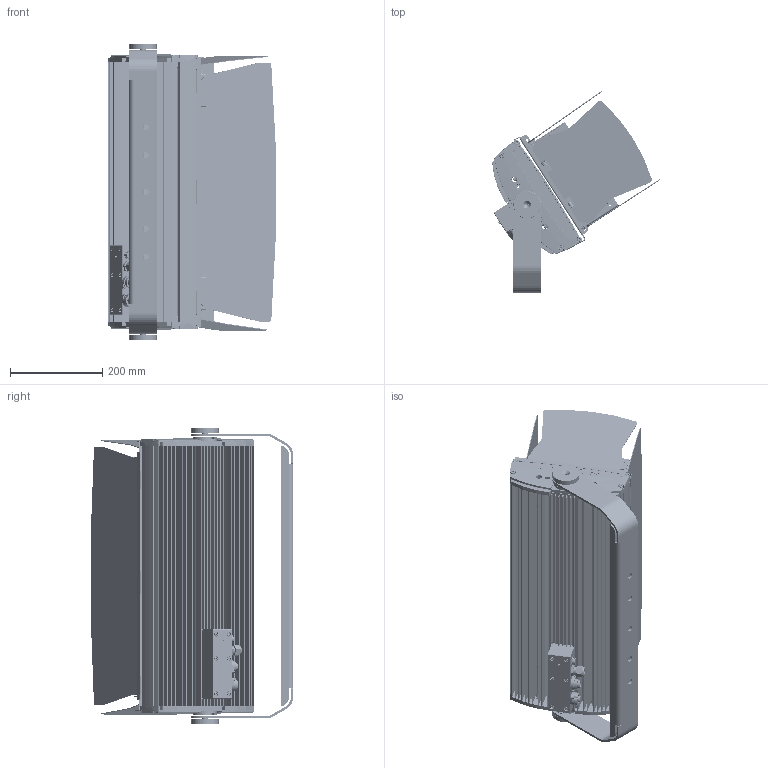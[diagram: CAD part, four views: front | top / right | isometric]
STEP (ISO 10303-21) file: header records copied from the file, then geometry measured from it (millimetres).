
FILE_DESCRIPTION(/* description */ ('','CAx-IF Rec.Pracs.---Representation and Presentation of Product Manufacturing Information (PMI)---4.0---2014-10-13'),/* implementation_level */ '2;1');
FILE_NAME(/* name */ '210210 - MEGAWHITE 66 M.stp',/* time_stamp */ '2026-06-24T13:00:33+02:00',/* author */ ('vilfredomariaricci'),/* organization */ (''),/* preprocessor_version */ 'ST-DEVELOPER v20',/* originating_system */ 'Autodesk Inventor 2025',/* authorisation */ '');
FILE_SCHEMA (('AP242_MANAGED_MODEL_BASED_3D_ENGINEERING_MIM_LF { 1 0 10303 442 1 1 4 }'));
Products named in the file (96): 210210 - MEGAWHITE 66 M; 210210-BASE-00; 210210-010-00; 210210-010-00_1; 210210-013-00; 210210-013-00_1; 210210-TESTA-00; 210210-001-00; 210210-001-00_1; 210210-011-00; 210210-011-00_1; 210210-014-00; Vite_TCEI_AF_4,8x22; 210210-012-00; 210210-026-00; 210210-008-00; 210210-008-00_1; 210210-009-00; Tappo Valvolina Anticondensa; PG 11; DMX_Female; DMX_Male; UNI 5931 - M 3 x  10; UNI 5931 - M 4 x  40; 210210-ELETTRONICA; 210210-015-00; 210210-015-00_1; FH-M3-10 ZI; F-M5-2; BSO-M3-12 ZI; CIRCUITO-MP-SPD10KV-UL; CIRCUITO-MP-SPD10KV-UL_1; ISO 7045 - M3 x 6 - 4.8 - Z; CIRCUITO-MEGAWHITE30-RDM; CIRCUITO-MEGAWHITE30-RDM_1; LED; LENTE KING BRITE; CESTELLO KING BRITE; LENTE KING BRITE_1; Distanziale FF M3x15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
Assembly tree (322 placements, depth 7):
  210210 - MEGAWHITE 66 M
    210210-BASE-00
      210210-010-00
        210210-010-00_1
      210210-013-00  x2
        210210-013-00_1
    210210-TESTA-00
      210210-001-00
        210210-001-00_1
      210210-011-00  x2
        210210-011-00_1
        210210-014-00
        Vite_TCEI_AF_4,8x22
        210210-012-00
      210210-026-00
      210210-008-00
        210210-008-00_1
        210210-009-00
        Tappo Valvolina Anticondensa
        PG 11
        DMX_Female
        DMX_Male
        UNI 5931 - M 3 x  10  x5
        UNI 5931 - M 4 x  40  x6
      210210-ELETTRONICA
        210210-015-00
          210210-015-00_1
          FH-M3-10 ZI  x29
          F-M5-2  x8
          FH-M4-10 ZI  x4
          BSO-M3-12 ZI  x3
        CIRCUITO-MP-SPD10KV-UL
          CIRCUITO-MP-SPD10KV-UL_1
          ISO 7045 - M3 x 6 - 4.8 - Z  x3
        CIRCUITO-MEGAWHITE30-RDM  x2
          CIRCUITO-MEGAWHITE30-RDM_1
          LED
          LENTE KING BRITE
            CESTELLO KING BRITE
            LENTE KING BRITE_1
          Distanziale FF M3x15
        UNI 5931 - M 5 x  10  x8
        UNI 6592 - 5,3 x 10  x8
        210210-016-00
          210210-016-00_1
          ISO 7046-1 - M3 x 6  x24
        XLG-240-3D
          ELG-150-C_1_ASM
            CASE_ASM
              237E-D
              237A-T
            WIRE_ASM
              IP_1_1
              OP_1_2
              OP2
          VRSAI
      210210 - BARNDOOR
        210-080-00
          210210-080-00
          FH-M4-10 ZI  x3
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Bounding box: 363.77 x 438.74 x 641 mm (x, y, z)
Volume: 6421220.6 mm3; surface area: 5573350.6 mm2
Topology: 435 solids, 435 shells, 17089 faces, 42923 edges, 27752 vertices
Faces by surface type: plane 9479, cylinder 4358, cone 1985, bspline 658, torus 539, sphere 70
Full cylindrical faces by diameter (mm): 0.2 x120, 1 x120, 1.2 x240, 1.5 x4, 1.6 x4, 2.3 x6, 2.459 x32, 2.6 x3, 2.693 x24, 2.729 x3, 3 x104, 3.1 x43, 3.2 x9, 3.242 x21, 3.3 x12, 3.5 x6, 3.8 x3, 3.9 x4, 4 x44, 4.1 x19, 4.134 x12, 4.2 x9, 4.3 x15, 4.5 x16, 4.567 x8, 4.6 x35, 4.76 x24, 4.8 x8, 5 x23, 5.1 x12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
Entity records: 183402 total; most frequent: CARTESIAN_POINT 40316, DIRECTION 30447, ORIENTED_EDGE 27906, EDGE_CURVE 13953, AXIS2_PLACEMENT_3D 11221, VERTEX_POINT 8879, LINE 8005, VECTOR 8005
